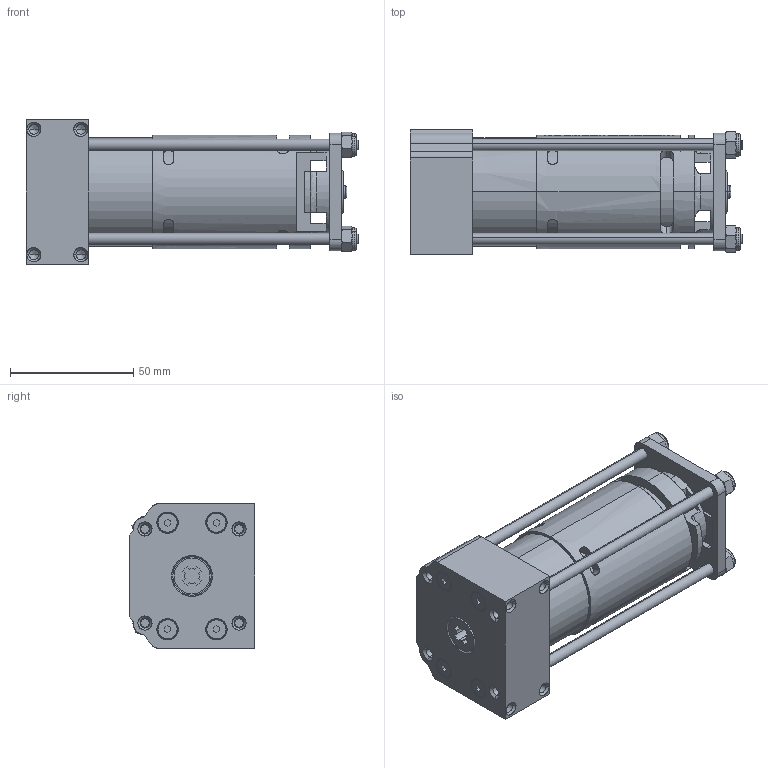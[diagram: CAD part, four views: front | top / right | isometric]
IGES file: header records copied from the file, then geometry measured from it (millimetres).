
Start section: SolidWorks IGES FILE using analytic representation for surfaces
Global section: file name: C:\Documents and Settings\Owner\My Documents\_SW\Rip 2\teamdelta\Dewalt Assy.IGS; native system: SolidWorks 2004 by SolidWorks Corporation; preprocessor: Version 5.3; author: Owner; date: 040514.211550; units: inch
Bounding box: 134.45 x 50.8 x 58.42 mm (x, y, z)
Surface area: 56046.8 mm2 (no closed solid volume)
Topology: 0 solids, 0 shells, 858 faces, 11211 edges, 11203 vertices
Faces by surface type: bspline 563, revolution 295
